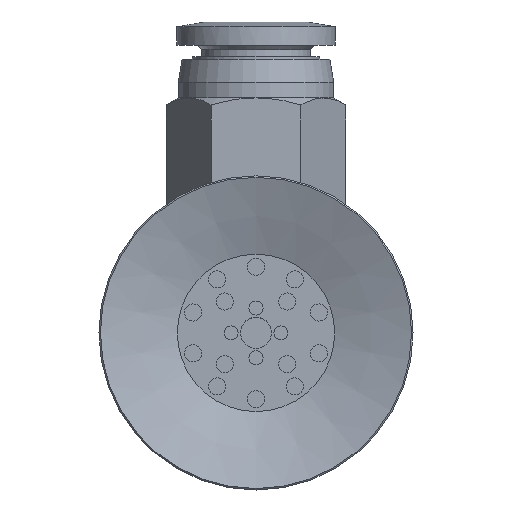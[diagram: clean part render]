
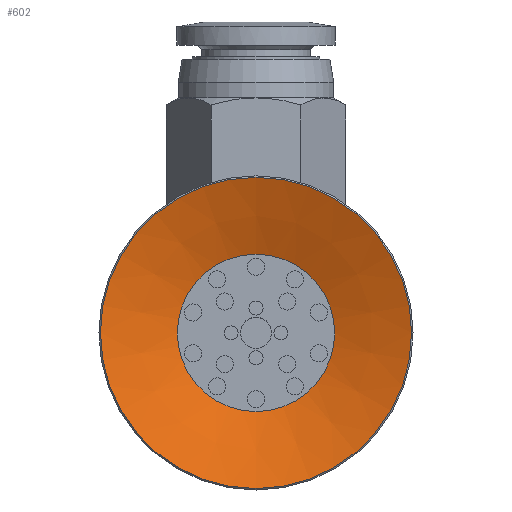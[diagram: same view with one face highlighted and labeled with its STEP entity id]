
A CAD part, front view. The second image highlights one B-rep face of the part: STEP entity #602.
In plain terms, the highlighted conical face has half-angle 70 degrees and reference radius 10 mm.
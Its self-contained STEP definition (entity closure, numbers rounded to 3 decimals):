
#602=ADVANCED_FACE('',(#1012,#1013),#1014,.F.);
#1012=FACE_BOUND('',#1746,.T.);
#1013=FACE_OUTER_BOUND('',#1747,.T.);
#1014=CONICAL_SURFACE('',#1748,10.0,1.222);
#1746=EDGE_LOOP('',(#2891));
#1747=EDGE_LOOP('',(#2892));
#1748=AXIS2_PLACEMENT_3D('',#2893,#2894,#2895);
#2891=ORIENTED_EDGE('',*,*,#3440,.T.);
#2892=ORIENTED_EDGE('',*,*,#3441,.F.);
#2893=CARTESIAN_POINT('',(0.0,0.,0.));
#2894=DIRECTION('',(0.0,0.,-1.0));
#2895=DIRECTION('',(0.0,1.0,0.));
#3440=EDGE_CURVE('',#3955,#3955,#3956,.T.);
#3441=EDGE_CURVE('',#3957,#3957,#3958,.T.);
#3955=VERTEX_POINT('',#5275);
#3956=CIRCLE('',#5276,5.055);
#3957=VERTEX_POINT('',#5277);
#3958=CIRCLE('',#5278,10.0);
#5275=CARTESIAN_POINT('',(0.0,-5.055,1.8));
#5276=AXIS2_PLACEMENT_3D('',#5763,#5764,#5765);
#5277=CARTESIAN_POINT('',(0.0,-10.0,0.));
#5278=AXIS2_PLACEMENT_3D('',#5766,#5767,#5768);
#5763=CARTESIAN_POINT('',(0.0,0.,1.8));
#5764=DIRECTION('',(0.0,0.,1.0));
#5765=DIRECTION('',(0.0,-1.0,0.));
#5766=CARTESIAN_POINT('',(0.0,0.,0.));
#5767=DIRECTION('',(0.0,0.,1.0));
#5768=DIRECTION('',(0.0,-1.0,0.));
